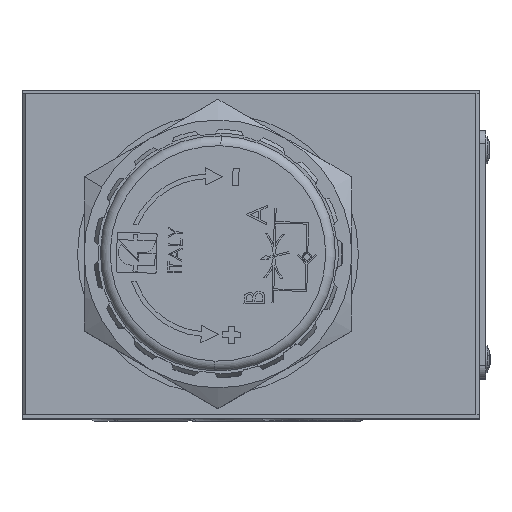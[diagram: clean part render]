
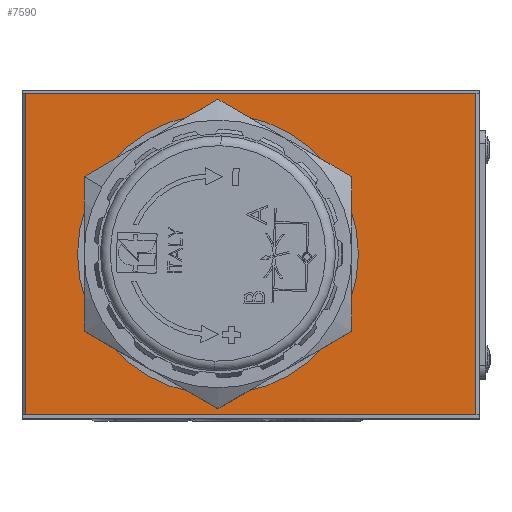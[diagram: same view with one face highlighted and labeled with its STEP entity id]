
A CAD part, top view. The second image highlights one B-rep face of the part: STEP entity #7590.
In plain terms, the highlighted planar face has unit normal (0, 0, 1).
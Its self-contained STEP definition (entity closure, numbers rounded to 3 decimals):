
#413 = LINE ( 'NONE', #49471, #15442 ) ;
#5034 = AXIS2_PLACEMENT_3D ( 'NONE', #68942, #59303, #19565 ) ;
#6956 = ORIENTED_EDGE ( 'NONE', *, *, #16570, .T. ) ;
#7590 = ADVANCED_FACE ( 'NONE', ( #27834, #36669 ), #23345, .F. ) ;
#9284 = CARTESIAN_POINT ( 'NONE',  ( 48.738, -7.748, 55. ) ) ;
#9843 = ORIENTED_EDGE ( 'NONE', *, *, #19710, .T. ) ;
#12316 = ORIENTED_EDGE ( 'NONE', *, *, #73036, .T. ) ;
#12931 = CIRCLE ( 'NONE', #70261, 21.5 ) ;
#14274 = CARTESIAN_POINT ( 'NONE',  ( 9.238, 16.852, 55. ) ) ;
#15318 = CARTESIAN_POINT ( 'NONE',  ( -20.762, -7.748, 55. ) ) ;
#15442 = VECTOR ( 'NONE', #71693, 1000. ) ;
#15647 = DIRECTION ( 'NONE',  ( 0., 0., -1. ) ) ;
#16146 = DIRECTION ( 'NONE',  ( -1., 0., 0. ) ) ;
#16570 = EDGE_CURVE ( 'NONE', #65843, #21735, #30631, .T. ) ;
#17458 = VERTEX_POINT ( 'NONE', #49576 ) ;
#19565 = DIRECTION ( 'NONE',  ( -1., 0., 0. ) ) ;
#19710 = EDGE_CURVE ( 'NONE', #22058, #17458, #12931, .T. ) ;
#20002 = DIRECTION ( 'NONE',  ( -1., 0., 0. ) ) ;
#21064 = EDGE_CURVE ( 'NONE', #17458, #22058, #41219, .T. ) ;
#21735 = VERTEX_POINT ( 'NONE', #50158 ) ;
#22058 = VERTEX_POINT ( 'NONE', #65603 ) ;
#23345 = PLANE ( 'NONE',  #5034 ) ;
#27166 = DIRECTION ( 'NONE',  ( 0., -1., 0. ) ) ;
#27834 = FACE_BOUND ( 'NONE', #33042, .T. ) ;
#27901 = CARTESIAN_POINT ( 'NONE',  ( -20.262, -8.248, 55. ) ) ;
#30631 = LINE ( 'NONE', #70576, #51990 ) ;
#32266 = DIRECTION ( 'NONE',  ( 1., 0., 0. ) ) ;
#33042 = EDGE_LOOP ( 'NONE', ( #49249, #9843 ) ) ;
#35363 = VERTEX_POINT ( 'NONE', #9284 ) ;
#36669 = FACE_OUTER_BOUND ( 'NONE', #72163, .T. ) ;
#38979 = EDGE_CURVE ( 'NONE', #35363, #65843, #413, .T. ) ;
#40668 = CARTESIAN_POINT ( 'NONE',  ( -20.262, -7.748, 55. ) ) ;
#41219 = CIRCLE ( 'NONE', #69398, 21.5 ) ;
#43827 = VECTOR ( 'NONE', #27166, 1000. ) ;
#44781 = VECTOR ( 'NONE', #32266, 1000. ) ;
#45321 = VERTEX_POINT ( 'NONE', #40668 ) ;
#49249 = ORIENTED_EDGE ( 'NONE', *, *, #21064, .T. ) ;
#49471 = CARTESIAN_POINT ( 'NONE',  ( 48.738, -8.248, 55. ) ) ;
#49576 = CARTESIAN_POINT ( 'NONE',  ( -12.262, 16.852, 55. ) ) ;
#50158 = CARTESIAN_POINT ( 'NONE',  ( -20.262, 41.452, 55. ) ) ;
#50239 = CARTESIAN_POINT ( 'NONE',  ( 9.238, 16.852, 55. ) ) ;
#50783 = EDGE_CURVE ( 'NONE', #21735, #45321, #53605, .T. ) ;
#51990 = VECTOR ( 'NONE', #54776, 1000. ) ;
#53605 = LINE ( 'NONE', #27901, #43827 ) ;
#54066 = DIRECTION ( 'NONE',  ( 0., 0., -1. ) ) ;
#54776 = DIRECTION ( 'NONE',  ( -1., 0., 0. ) ) ;
#57752 = ORIENTED_EDGE ( 'NONE', *, *, #50783, .T. ) ;
#59303 = DIRECTION ( 'NONE',  ( 0., 0., -1. ) ) ;
#63344 = LINE ( 'NONE', #15318, #44781 ) ;
#65603 = CARTESIAN_POINT ( 'NONE',  ( 30.738, 16.852, 55. ) ) ;
#65843 = VERTEX_POINT ( 'NONE', #70229 ) ;
#68942 = CARTESIAN_POINT ( 'NONE',  ( 49.238, -8.248, 55. ) ) ;
#69398 = AXIS2_PLACEMENT_3D ( 'NONE', #50239, #15647, #16146 ) ;
#70229 = CARTESIAN_POINT ( 'NONE',  ( 48.738, 41.452, 55. ) ) ;
#70261 = AXIS2_PLACEMENT_3D ( 'NONE', #14274, #54066, #20002 ) ;
#70576 = CARTESIAN_POINT ( 'NONE',  ( 49.238, 41.452, 55. ) ) ;
#71693 = DIRECTION ( 'NONE',  ( 0., 1., 0. ) ) ;
#72163 = EDGE_LOOP ( 'NONE', ( #12316, #72726, #6956, #57752 ) ) ;
#72726 = ORIENTED_EDGE ( 'NONE', *, *, #38979, .T. ) ;
#73036 = EDGE_CURVE ( 'NONE', #45321, #35363, #63344, .T. ) ;
